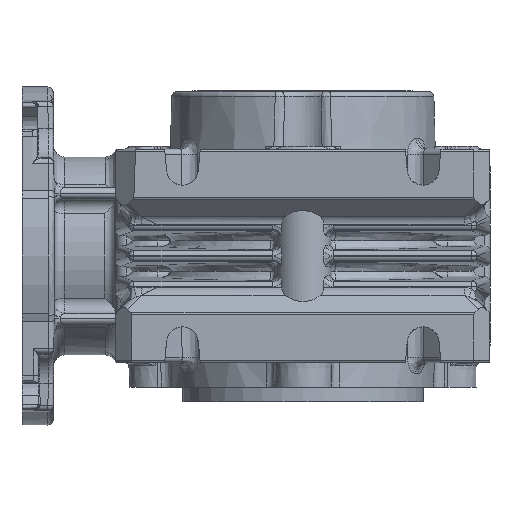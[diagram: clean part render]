
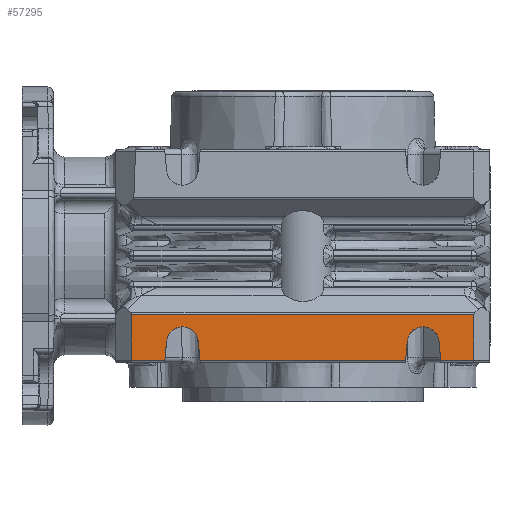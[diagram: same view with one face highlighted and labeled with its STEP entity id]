
A CAD part, front view. The second image highlights one B-rep face of the part: STEP entity #57295.
In plain terms, the highlighted planar face has unit normal (0, -1, 0).
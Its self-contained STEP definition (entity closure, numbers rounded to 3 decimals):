
#362 = VERTEX_POINT ( 'NONE', #89465 ) ;
#1124 = EDGE_CURVE ( 'NONE', #110258, #51894, #12828, .T. ) ;
#1432 = CARTESIAN_POINT ( 'NONE',  ( -35., -35., -19.5 ) ) ;
#2978 = CARTESIAN_POINT ( 'NONE',  ( -19.5, -35., -16.25 ) ) ;
#8887 = CARTESIAN_POINT ( 'NONE',  ( 32., -35., 20. ) ) ;
#12215 = EDGE_CURVE ( 'NONE', #13634, #66229, #29461, .T. ) ;
#12828 = LINE ( 'NONE', #1432, #35896 ) ;
#13326 = LINE ( 'NONE', #82177, #25043 ) ;
#13331 = VERTEX_POINT ( 'NONE', #2978 ) ;
#13634 = VERTEX_POINT ( 'NONE', #104010 ) ;
#13636 = CIRCLE ( 'NONE', #84253, 3. ) ;
#14451 = VECTOR ( 'NONE', #82278, 1000. ) ;
#14782 = EDGE_CURVE ( 'NONE', #362, #74213, #86813, .T. ) ;
#15485 = ORIENTED_EDGE ( 'NONE', *, *, #24800, .F. ) ;
#23164 = CARTESIAN_POINT ( 'NONE',  ( -32., -35., -10.957 ) ) ;
#23441 = AXIS2_PLACEMENT_3D ( 'NONE', #33249, #81864, #119118 ) ;
#24648 = EDGE_CURVE ( 'NONE', #87598, #43739, #13636, .T. ) ;
#24800 = EDGE_CURVE ( 'NONE', #13634, #13331, #30319, .T. ) ;
#25043 = VECTOR ( 'NONE', #100442, 1000. ) ;
#26246 = DIRECTION ( 'NONE',  ( 1., 0., 0. ) ) ;
#26388 = EDGE_CURVE ( 'NONE', #74213, #85549, #95449, .T. ) ;
#29461 = LINE ( 'NONE', #118312, #39138 ) ;
#30319 = LINE ( 'NONE', #58722, #66211 ) ;
#30409 = LINE ( 'NONE', #31696, #115047 ) ;
#30814 = CARTESIAN_POINT ( 'NONE',  ( 19.216, -35., -19.5 ) ) ;
#31116 = VECTOR ( 'NONE', #78207, 1000. ) ;
#31696 = CARTESIAN_POINT ( 'NONE',  ( -32., -35., -10.957 ) ) ;
#32915 = ORIENTED_EDGE ( 'NONE', *, *, #33894, .F. ) ;
#33249 = CARTESIAN_POINT ( 'NONE',  ( -35., -35., 20. ) ) ;
#33894 = EDGE_CURVE ( 'NONE', #46528, #51894, #80417, .T. ) ;
#34345 = LINE ( 'NONE', #42555, #65919 ) ;
#35896 = VECTOR ( 'NONE', #78534, 1000. ) ;
#38349 = PLANE ( 'NONE',  #23441 ) ;
#39138 = VECTOR ( 'NONE', #80437, 1000. ) ;
#41062 = CARTESIAN_POINT ( 'NONE',  ( 19.5, -35., -16.25 ) ) ;
#42555 = CARTESIAN_POINT ( 'NONE',  ( 19.172, -35., -20. ) ) ;
#43739 = VERTEX_POINT ( 'NONE', #41062 ) ;
#45156 = CARTESIAN_POINT ( 'NONE',  ( -25.784, -35., -19.5 ) ) ;
#46528 = VERTEX_POINT ( 'NONE', #121208 ) ;
#49035 = FACE_OUTER_BOUND ( 'NONE', #64368, .T. ) ;
#49538 = ORIENTED_EDGE ( 'NONE', *, *, #14782, .T. ) ;
#50216 = CARTESIAN_POINT ( 'NONE',  ( 22.5, -35., -16.25 ) ) ;
#51464 = DIRECTION ( 'NONE',  ( 0., 0., 1. ) ) ;
#51894 = VERTEX_POINT ( 'NONE', #45156 ) ;
#54816 = ORIENTED_EDGE ( 'NONE', *, *, #24648, .F. ) ;
#55936 = CARTESIAN_POINT ( 'NONE',  ( -35., -35., -19.5 ) ) ;
#57295 = ADVANCED_FACE ( 'NONE', ( #49035 ), #38349, .F. ) ;
#58154 = VERTEX_POINT ( 'NONE', #23164 ) ;
#58722 = CARTESIAN_POINT ( 'NONE',  ( -19.172, -35., -20. ) ) ;
#63015 = CARTESIAN_POINT ( 'NONE',  ( -32., -35., -19.5 ) ) ;
#64368 = EDGE_LOOP ( 'NONE', ( #71393, #49538, #70897, #68781, #65221, #104253, #32915, #87019, #15485, #116085, #80447, #54816 ) ) ;
#65221 = ORIENTED_EDGE ( 'NONE', *, *, #94792, .T. ) ;
#65919 = VECTOR ( 'NONE', #81105, 1000. ) ;
#66211 = VECTOR ( 'NONE', #89049, 1000. ) ;
#66229 = VERTEX_POINT ( 'NONE', #30814 ) ;
#68781 = ORIENTED_EDGE ( 'NONE', *, *, #77773, .T. ) ;
#68924 = DIRECTION ( 'NONE',  ( -1., 0., 0. ) ) ;
#70412 = DIRECTION ( 'NONE',  ( 0., 0., -1. ) ) ;
#70897 = ORIENTED_EDGE ( 'NONE', *, *, #26388, .T. ) ;
#71393 = ORIENTED_EDGE ( 'NONE', *, *, #80389, .F. ) ;
#72533 = AXIS2_PLACEMENT_3D ( 'NONE', #119015, #88725, #51464 ) ;
#72804 = CARTESIAN_POINT ( 'NONE',  ( -25.5, -35., -16.25 ) ) ;
#72954 = VECTOR ( 'NONE', #26246, 1000. ) ;
#74213 = VERTEX_POINT ( 'NONE', #113401 ) ;
#77528 = CARTESIAN_POINT ( 'NONE',  ( 25.5, -35., -16.25 ) ) ;
#77580 = CARTESIAN_POINT ( 'NONE',  ( 25.5, -35., -16.25 ) ) ;
#77773 = EDGE_CURVE ( 'NONE', #85549, #58154, #30409, .T. ) ;
#78207 = DIRECTION ( 'NONE',  ( -0.087, 0., 0.996 ) ) ;
#78534 = DIRECTION ( 'NONE',  ( 1., 0., 0. ) ) ;
#80389 = EDGE_CURVE ( 'NONE', #362, #87598, #95909, .T. ) ;
#80417 = LINE ( 'NONE', #72804, #14451 ) ;
#80437 = DIRECTION ( 'NONE',  ( 1., 0., 0. ) ) ;
#80447 = ORIENTED_EDGE ( 'NONE', *, *, #101310, .F. ) ;
#81105 = DIRECTION ( 'NONE',  ( -0.087, 0., -0.996 ) ) ;
#81154 = DIRECTION ( 'NONE',  ( 0., -1., 0. ) ) ;
#81864 = DIRECTION ( 'NONE',  ( 0., 1., 0. ) ) ;
#82177 = CARTESIAN_POINT ( 'NONE',  ( -32., -35., 20. ) ) ;
#82278 = DIRECTION ( 'NONE',  ( -0.087, 0., -0.996 ) ) ;
#84253 = AXIS2_PLACEMENT_3D ( 'NONE', #50216, #81154, #70412 ) ;
#84756 = CARTESIAN_POINT ( 'NONE',  ( 32., -35., -10.957 ) ) ;
#85404 = DIRECTION ( 'NONE',  ( 0., 0., 1. ) ) ;
#85549 = VERTEX_POINT ( 'NONE', #84756 ) ;
#86813 = LINE ( 'NONE', #55936, #72954 ) ;
#87019 = ORIENTED_EDGE ( 'NONE', *, *, #89991, .F. ) ;
#87598 = VERTEX_POINT ( 'NONE', #77528 ) ;
#88725 = DIRECTION ( 'NONE',  ( 0., -1., 0. ) ) ;
#88841 = VECTOR ( 'NONE', #85404, 1000. ) ;
#89049 = DIRECTION ( 'NONE',  ( -0.087, 0., 0.996 ) ) ;
#89465 = CARTESIAN_POINT ( 'NONE',  ( 25.784, -35., -19.5 ) ) ;
#89991 = EDGE_CURVE ( 'NONE', #13331, #46528, #116828, .T. ) ;
#94792 = EDGE_CURVE ( 'NONE', #58154, #110258, #13326, .T. ) ;
#95449 = LINE ( 'NONE', #8887, #88841 ) ;
#95909 = LINE ( 'NONE', #77580, #31116 ) ;
#100442 = DIRECTION ( 'NONE',  ( 0., 0., -1. ) ) ;
#101310 = EDGE_CURVE ( 'NONE', #43739, #66229, #34345, .T. ) ;
#104010 = CARTESIAN_POINT ( 'NONE',  ( -19.216, -35., -19.5 ) ) ;
#104253 = ORIENTED_EDGE ( 'NONE', *, *, #1124, .T. ) ;
#110258 = VERTEX_POINT ( 'NONE', #63015 ) ;
#113401 = CARTESIAN_POINT ( 'NONE',  ( 32., -35., -19.5 ) ) ;
#115047 = VECTOR ( 'NONE', #68924, 1000. ) ;
#116085 = ORIENTED_EDGE ( 'NONE', *, *, #12215, .T. ) ;
#116828 = CIRCLE ( 'NONE', #72533, 3. ) ;
#118312 = CARTESIAN_POINT ( 'NONE',  ( -35., -35., -19.5 ) ) ;
#119015 = CARTESIAN_POINT ( 'NONE',  ( -22.5, -35., -16.25 ) ) ;
#119118 = DIRECTION ( 'NONE',  ( 0., 0., 1. ) ) ;
#121208 = CARTESIAN_POINT ( 'NONE',  ( -25.5, -35., -16.25 ) ) ;
